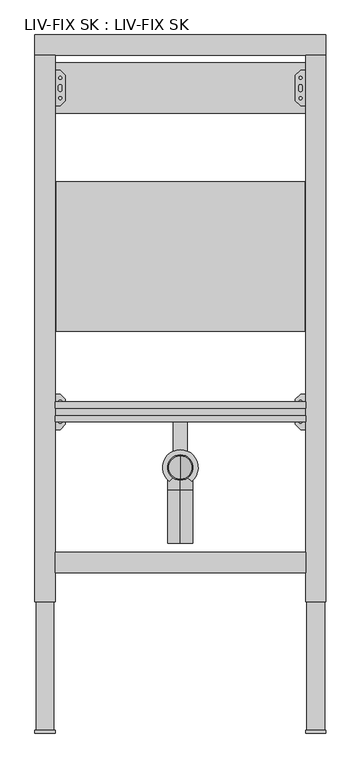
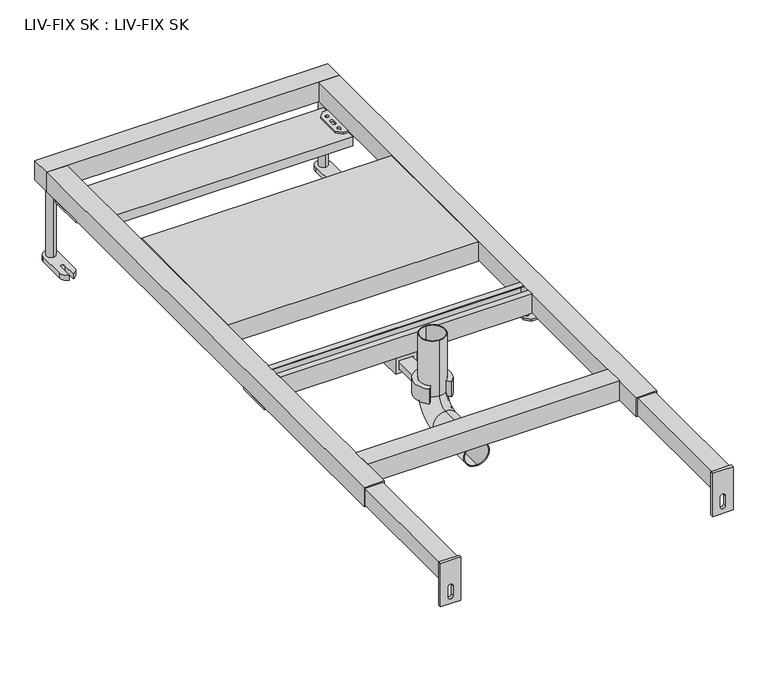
"""IFC4 building model written with IfcOpenShell, lengths in millimetres: flow terminal geometry, LIV-FIX SK : LIV-FIX SK."""

from ifc_helpers import new_model, si_unit, point, frame, frame_2d, origin, origin_with_axes, place, context, project, spatial, polyline, circle_curve, ellipse_curve, trimmed, segment, composite_curve, outline, extrude, source, transform, mapped, element, save
from ifc_brep_helpers import plane_surface, cylinder_surface, revolved_surface, advanced_brep


def liv_fix_sk_liv_fix_sk_3fb73113(model_context):
    return source(origin(), model_context, "Body", "SolidModel", [
        extrude(outline(polyline([(245.5, 890.0), (245.5, 594.0), (-245.5, 594.0), (-245.5, 890.0), (245.5, 890.0)])), frame((0.0, 0.0, 160.0), z_axis=(0.0, 0.0, 1.0), x_axis=(1.0, 0.0, 0.0)), (0.0, 0.0, 1.0), 40.0),
        extrude(outline(polyline([(247.5, 1125.0), (247.5, 1025.0), (-247.5, 1025.0), (-247.5, 1125.0), (247.5, 1125.0)])), frame((0.0, 0.0, 138.0), z_axis=(0.0, 0.0, 1.0), x_axis=(1.0, 0.0, 0.0)), (0.0, 0.0, 1.0), 18.0),
        advanced_brep(
        [(-14.0, 455.0, 136.5), (-14.0, 455.0, 150.0), (14.0, 455.0, 150.0), (14.0, 455.0, 136.5), (14.0, 357.0780299, 136.5), (22.1922786, 297.9352116, 136.5), (15.0727332, 305.0547571, 136.5), (-15.0727332, 305.0547571, 136.5), (-22.1922786, 297.9352116, 136.5), (-14.0, 357.0780299, 136.5), (14.0, 357.0780299, 150.0), (-14.0, 357.0780299, 150.0), (0.0, 360.0, 150.0), (15.0727332, 305.0547571, 167.5), (22.1922786, 297.9352116, 167.5), (0.0, 360.0, 167.5), (-22.1922786, 297.9352116, 167.5), (-15.0727332, 305.0547571, 167.5)],
        [
            (0, 1),
            (1, 2),
            (2, 3),
            (3, 0),
            (3, 4),
            (4, 5, circle_curve(frame((0.0, 325.0, 136.5), z_axis=(0.0, 0.0, -1.0), x_axis=(0.0, -1.0, 0.0)), 35.0)),
            (5, 6),
            (6, 7, circle_curve(frame((0.0, 325.0, 136.5), z_axis=(0.0, 0.0, 1.0), x_axis=(0.0, -1.0, 0.0)), 25.0)),
            (7, 8),
            (8, 9, circle_curve(frame((0.0, 325.0, 136.5), z_axis=(0.0, 0.0, -1.0), x_axis=(0.0, -1.0, 0.0)), 35.0)),
            (9, 0),
            (2, 10),
            (10, 4),
            (1, 11),
            (11, 12, circle_curve(frame((0.0, 325.0, 150.0), z_axis=(0.0, 0.0, -1.0), x_axis=(0.0, -1.0, 0.0)), 35.0)),
            (12, 10, circle_curve(frame((0.0, 325.0, 150.0), z_axis=(0.0, 0.0, -1.0), x_axis=(0.0, -1.0, 0.0)), 35.0)),
            (9, 11),
            (13, 14),
            (14, 15, circle_curve(frame((0.0, 325.0, 167.5), z_axis=(0.0, 0.0, 1.0), x_axis=(0.0, -1.0, 0.0)), 35.0)),
            (15, 16, circle_curve(frame((0.0, 325.0, 167.5), z_axis=(0.0, 0.0, 1.0), x_axis=(0.0, -1.0, 0.0)), 35.0)),
            (16, 17),
            (17, 13, circle_curve(frame((0.0, 325.0, 167.5), z_axis=(0.0, 0.0, -1.0), x_axis=(0.0, -1.0, 0.0)), 25.0)),
            (17, 7),
            (6, 13),
            (16, 8),
            (15, 12),
            (14, 5),
        ],
        [
            plane_surface(frame((-14.0, 455.0, 136.5), z_axis=(0.0, 1.0, 0.0), x_axis=(0.0, 0.0, 1.0))),
            plane_surface(frame((14.0, 455.0, 136.5), z_axis=(0.0, 0.0, -1.0), x_axis=(0.0, -1.0, 0.0))),
            plane_surface(frame((14.0, 455.0, 150.0), z_axis=(1.0, 0.0, 0.0), x_axis=(0.0, -1.0, 0.0))),
            plane_surface(frame((-14.0, 455.0, 150.0), z_axis=(0.0, 0.0, 1.0), x_axis=(0.0, -1.0, 0.0))),
            plane_surface(frame((-14.0, 455.0, 136.5), z_axis=(-1.0, 0.0, 0.0), x_axis=(0.0, -1.0, 0.0))),
            plane_surface(frame((0.0, 300.0, 167.5), z_axis=(0.0, 0.0, 1.0), x_axis=(-1.0, 0.0, 0.0))),
            revolved_surface(polyline([(0.0, 300.0, 167.5), (0.0, 300.0, 136.5)]), (0.0, 325.0, 167.5), (0.0, 0.0, 1.0)),
            plane_surface(frame((-15.0727332, 305.0547571, 136.5), z_axis=(0.7071067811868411, -0.707106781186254, 0.0), x_axis=(0.0, 0.0, 1.0))),
            cylinder_surface(frame((0.0, 325.0, 167.5), z_axis=(0.0, 0.0, -1.0), x_axis=(0.0, -1.0, 0.0)), 35.0),
            plane_surface(frame((22.1922786, 297.9352116, 136.5), z_axis=(-0.7071067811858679, -0.7071067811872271, 0.0), x_axis=(0.0, 0.0, 1.0))),
        ],
        [
            (0, [[1, 2, 3, 4]]),
            (1, [[-4, 5, 6, 7, 8, 9, 10, 11]]),
            (2, [[-3, 12, 13, -5]]),
            (3, [[-2, 14, 15, 16, -12]]),
            (4, [[-1, -11, 17, -14]]),
            (5, [[18, 19, 20, 21, 22]]),
            (6, [[-22, 23, -8, 24]]),
            (7, [[-21, 25, -9, -23]]),
            (8, [[-20, 26, -15, -17, -10, -25]]),
            (8, [[-19, 27, -6, -13, -16, -26]]),
            (9, [[-18, -24, -7, -27]]),
        ],
    ),
        extrude(outline(polyline([(415.0, 200.0), (427.4845167, 200.0), (427.4845167, 198.5), (416.5, 198.5), (416.5, 161.5), (453.5, 161.5), (453.5, 198.5), (442.5154833, 198.5), (442.5154833, 200.0), (455.0, 200.0), (455.0, 160.0), (415.0, 160.0), (415.0, 200.0)])), frame((-247.5, 0.0, 0.0), z_axis=(1.0, 0.0, 0.0), x_axis=(0.0, 1.0, 0.0)), (0.0, 0.0, 1.0), 495.0),
        extrude(outline(polyline([(237.5, 1040.0), (227.5, 1050.0), (227.5, 1100.0), (237.5, 1110.0), (287.5, 1110.0), (287.5, 1040.0), (237.5, 1040.0)]), holes=[composite_curve([segment(trimmed(circle_curve(frame_2d((272.5, 1075.0)), 4.5), [point((272.5, 1070.5))], [point((272.5, 1079.5))], True, "CARTESIAN"), True, "CONTINUOUS"), segment(trimmed(circle_curve(frame_2d((272.5, 1075.0)), 4.5), [point((272.5, 1079.5))], [point((272.5, 1070.5))], True, "CARTESIAN"), True, "CONTINUOUS")], self_intersect=False), composite_curve([segment(trimmed(circle_curve(frame_2d((272.5, 1095.0)), 4.5), [point((272.5, 1090.5))], [point((272.5, 1099.5))], True, "CARTESIAN"), True, "CONTINUOUS"), segment(trimmed(circle_curve(frame_2d((272.5, 1095.0)), 4.5), [point((272.5, 1099.5))], [point((272.5, 1090.5))], True, "CARTESIAN"), True, "CONTINUOUS")], self_intersect=False), composite_curve([segment(trimmed(circle_curve(frame_2d((272.5, 1055.0)), 4.5), [point((272.5, 1050.5))], [point((272.5, 1059.5))], True, "CARTESIAN"), True, "CONTINUOUS"), segment(trimmed(circle_curve(frame_2d((272.5, 1055.0)), 4.5), [point((272.5, 1059.5))], [point((272.5, 1050.5))], True, "CARTESIAN"), True, "CONTINUOUS")], self_intersect=False), composite_curve([segment(trimmed(circle_curve(frame_2d((237.5, 1095.0)), 2.9795218), [point((237.5, 1092.0204782))], [point((237.5, 1097.9795218))], True, "CARTESIAN"), True, "CONTINUOUS"), segment(trimmed(circle_curve(frame_2d((237.5, 1095.0)), 2.9795218), [point((237.5, 1097.9795218))], [point((237.5, 1092.0204782))], True, "CARTESIAN"), True, "CONTINUOUS")], self_intersect=False), composite_curve([segment(trimmed(circle_curve(frame_2d((237.5, 1055.0)), 2.9795218), [point((237.5, 1052.0204782))], [point((237.5, 1057.9795218))], True, "CARTESIAN"), True, "CONTINUOUS"), segment(trimmed(circle_curve(frame_2d((237.5, 1055.0)), 2.9795218), [point((237.5, 1057.9795218))], [point((237.5, 1052.0204782))], True, "CARTESIAN"), True, "CONTINUOUS")], self_intersect=False), composite_curve([segment(trimmed(circle_curve(frame_2d((237.5, 1078.5)), 3.5), [point((241.0, 1078.5))], [point((234.0, 1078.5))], True, "CARTESIAN"), True, "CONTINUOUS"), segment(polyline([(234.0, 1078.5), (234.0, 1071.5)]), True, "CONTINUOUS"), segment(trimmed(circle_curve(frame_2d((237.5, 1071.5)), 3.5), [point((234.0, 1071.5))], [point((241.0, 1071.5))], True, "CARTESIAN"), True, "CONTINUOUS"), segment(polyline([(241.0, 1071.5), (241.0, 1078.5)]), True, "CONTINUOUS")], self_intersect=False)]), frame((0.0, 0.0, 156.0), z_axis=(0.0, 0.0, 1.0), x_axis=(1.0, 0.0, 0.0)), (0.0, 0.0, 1.0), 4.0),
        extrude(outline(polyline([(-237.5, 1040.0), (-287.5, 1040.0), (-287.5, 1110.0), (-237.5, 1110.0), (-227.5, 1100.0), (-227.5, 1050.0), (-237.5, 1040.0)]), holes=[composite_curve([segment(trimmed(circle_curve(frame_2d((-272.5, 1075.0)), 4.5), [point((-272.5, 1070.5))], [point((-272.5, 1079.5))], True, "CARTESIAN"), True, "CONTINUOUS"), segment(trimmed(circle_curve(frame_2d((-272.5, 1075.0)), 4.5), [point((-272.5, 1079.5))], [point((-272.5, 1070.5))], True, "CARTESIAN"), True, "CONTINUOUS")], self_intersect=False), composite_curve([segment(trimmed(circle_curve(frame_2d((-272.5, 1095.0)), 4.5), [point((-272.5, 1090.5))], [point((-272.5, 1099.5))], True, "CARTESIAN"), True, "CONTINUOUS"), segment(trimmed(circle_curve(frame_2d((-272.5, 1095.0)), 4.5), [point((-272.5, 1099.5))], [point((-272.5, 1090.5))], True, "CARTESIAN"), True, "CONTINUOUS")], self_intersect=False), composite_curve([segment(trimmed(circle_curve(frame_2d((-272.5, 1055.0)), 4.5), [point((-272.5, 1050.5))], [point((-272.5, 1059.5))], True, "CARTESIAN"), True, "CONTINUOUS"), segment(trimmed(circle_curve(frame_2d((-272.5, 1055.0)), 4.5), [point((-272.5, 1059.5))], [point((-272.5, 1050.5))], True, "CARTESIAN"), True, "CONTINUOUS")], self_intersect=False), composite_curve([segment(trimmed(circle_curve(frame_2d((-237.5, 1095.0)), 2.9795218), [point((-237.5, 1092.0204782))], [point((-237.5, 1097.9795218))], True, "CARTESIAN"), True, "CONTINUOUS"), segment(trimmed(circle_curve(frame_2d((-237.5, 1095.0)), 2.9795218), [point((-237.5, 1097.9795218))], [point((-237.5, 1092.0204782))], True, "CARTESIAN"), True, "CONTINUOUS")], self_intersect=False), composite_curve([segment(trimmed(circle_curve(frame_2d((-237.5, 1055.0)), 2.9795218), [point((-237.5, 1052.0204782))], [point((-237.5, 1057.9795218))], True, "CARTESIAN"), True, "CONTINUOUS"), segment(trimmed(circle_curve(frame_2d((-237.5, 1055.0)), 2.9795218), [point((-237.5, 1057.9795218))], [point((-237.5, 1052.0204782))], True, "CARTESIAN"), True, "CONTINUOUS")], self_intersect=False), composite_curve([segment(polyline([(-241.0, 1078.5), (-241.0, 1071.5)]), True, "CONTINUOUS"), segment(trimmed(circle_curve(frame_2d((-237.5, 1071.5)), 3.5), [point((-241.0, 1071.5))], [point((-234.0, 1071.5))], True, "CARTESIAN"), True, "CONTINUOUS"), segment(polyline([(-234.0, 1071.5), (-234.0, 1078.5)]), True, "CONTINUOUS"), segment(trimmed(circle_curve(frame_2d((-237.5, 1078.5)), 3.5), [point((-234.0, 1078.5))], [point((-241.0, 1078.5))], True, "CARTESIAN"), True, "CONTINUOUS")], self_intersect=False)]), frame((0.0, 0.0, 156.0), z_axis=(0.0, 0.0, 1.0), x_axis=(1.0, 0.0, 0.0)), (0.0, 0.0, 1.0), 4.0),
        advanced_brep(
        [(0.0, 175.0, 75.0), (0.0, 175.0, 125.0), (0.0, 175.0, 77.0), (0.0, 175.0, 123.0), (0.0, 280.0, 75.0), (0.0, 280.0, 125.0), (0.0, 350.0, 260.0), (0.0, 300.0, 260.0), (0.0, 348.0, 260.0), (0.0, 302.0, 260.0), (0.0, 300.0, 145.0), (0.0, 350.0, 145.0), (0.0, 280.0, 77.0), (0.0, 280.0, 123.0), (0.0, 302.0, 145.0), (0.0, 348.0, 145.0)],
        [
            (0, 1, circle_curve(frame((0.0, 175.0, 100.0), z_axis=(0.0, -1.0, 0.0), x_axis=(0.0, 0.0, 1.0)), 25.0)),
            (1, 0, circle_curve(frame((0.0, 175.0, 100.0), z_axis=(0.0, -1.0, 0.0), x_axis=(0.0, 0.0, 1.0)), 25.0)),
            (2, 3, circle_curve(frame((0.0, 175.0, 100.0), z_axis=(0.0, 1.0, 0.0), x_axis=(0.0, 0.0, 1.0)), 23.0)),
            (3, 2, circle_curve(frame((0.0, 175.0, 100.0), z_axis=(0.0, 1.0, 0.0), x_axis=(0.0, 0.0, 1.0)), 23.0)),
            (0, 4),
            (4, 5, circle_curve(frame((0.0, 280.0, 100.0), z_axis=(0.0, -1.0, 0.0), x_axis=(0.0, 0.0, 1.0)), 25.0)),
            (5, 1),
            (5, 4, circle_curve(frame((0.0, 280.0, 100.0), z_axis=(0.0, -1.0, 0.0), x_axis=(0.0, 0.0, 1.0)), 25.0)),
            (6, 7, circle_curve(frame((0.0, 325.0, 260.0), z_axis=(0.0, 0.0, 1.0), x_axis=(0.0, -1.0, 0.0)), 25.0)),
            (7, 6, circle_curve(frame((0.0, 325.0, 260.0), z_axis=(0.0, 0.0, 1.0), x_axis=(0.0, -1.0, 0.0)), 25.0)),
            (8, 9, circle_curve(frame((0.0, 325.0, 260.0), z_axis=(0.0, 0.0, -1.0), x_axis=(0.0, -1.0, 0.0)), 23.0)),
            (9, 8, circle_curve(frame((0.0, 325.0, 260.0), z_axis=(0.0, 0.0, -1.0), x_axis=(0.0, -1.0, 0.0)), 23.0)),
            (10, 11, circle_curve(frame((0.0, 325.0, 145.0), z_axis=(0.0, 0.0, 1.0), x_axis=(0.0, -1.0, 0.0)), 25.0)),
            (11, 6),
            (7, 10),
            (11, 10, circle_curve(frame((0.0, 325.0, 145.0), z_axis=(0.0, 0.0, 1.0), x_axis=(0.0, -1.0, 0.0)), 25.0)),
            (10, 5, circle_curve(frame((0.0, 280.0, 145.0), z_axis=(-1.0, 0.0, 0.0), x_axis=(0.0, 0.0, -1.0)), 20.0)),
            (4, 11, circle_curve(frame((0.0, 280.0, 145.0), z_axis=(1.0, 0.0, 0.0), x_axis=(0.0, 0.0, -1.0)), 70.0)),
            (2, 12),
            (12, 13, circle_curve(frame((0.0, 280.0, 100.0), z_axis=(0.0, 1.0, 0.0), x_axis=(0.0, 0.0, 1.0)), 23.0)),
            (13, 3),
            (13, 12, circle_curve(frame((0.0, 280.0, 100.0), z_axis=(0.0, 1.0, 0.0), x_axis=(0.0, 0.0, 1.0)), 23.0)),
            (14, 13, circle_curve(frame((0.0, 280.0, 145.0), z_axis=(-1.0, 0.0, 0.0), x_axis=(0.0, 0.0, -1.0)), 22.0)),
            (12, 15, circle_curve(frame((0.0, 280.0, 145.0), z_axis=(1.0, 0.0, 0.0), x_axis=(0.0, 0.0, -1.0)), 68.0)),
            (15, 14, circle_curve(frame((0.0, 325.0, 145.0), z_axis=(0.0, 0.0, 1.0), x_axis=(0.0, -1.0, 0.0)), 23.0)),
            (14, 15, circle_curve(frame((0.0, 325.0, 145.0), z_axis=(0.0, 0.0, 1.0), x_axis=(0.0, -1.0, 0.0)), 23.0)),
            (15, 8),
            (9, 14),
        ],
        [
            plane_surface(frame((0.0, 175.0, 100.0), z_axis=(0.0, -1.0, 0.0), x_axis=(1.0, 0.0, 0.0))),
            cylinder_surface(frame((0.0, 175.0, 100.0), z_axis=(0.0, -1.0, 0.0), x_axis=(0.0, 0.0, 1.0)), 25.0),
            plane_surface(frame((0.0, 325.0, 260.0), z_axis=(0.0, 0.0, 1.0), x_axis=(1.0, 0.0, 0.0))),
            cylinder_surface(frame((0.0, 325.0, 145.0), z_axis=(0.0, 0.0, -1.0), x_axis=(0.0, -1.0, 0.0)), 25.0),
            revolved_surface(trimmed(ellipse_curve(frame((0.0, 280.0, 100.0), z_axis=(0.0, -1.0, 0.0), x_axis=(0.0, 0.0, 1.0)), 25.0, 25.0), [point((0.0, 280.0, 75.0))], [point((0.0, 280.0, 125.0))], True, "CARTESIAN"), (0.0, 280.0, 145.0), (1.0, 0.0, 0.0)),
            revolved_surface(trimmed(ellipse_curve(frame((0.0, 280.0, 100.0), z_axis=(0.0, -1.0, 0.0), x_axis=(0.0, 0.0, 1.0)), 25.0, 25.0), [point((0.0, 280.0, 125.0))], [point((0.0, 280.0, 75.0))], True, "CARTESIAN"), (0.0, 280.0, 145.0), (1.0, 0.0, 0.0)),
            revolved_surface(polyline([(0.0, 280.0, 123.0), (0.0, 175.0, 123.0)]), (0.0, 175.0, 100.0), (0.0, 1.0, 0.0)),
            revolved_surface(trimmed(ellipse_curve(frame((0.0, 280.0, 100.0), z_axis=(0.0, 1.0, 0.0), x_axis=(0.0, 0.0, 1.0)), 23.0, 23.0), [point((0.0, 280.0, 77.0))], [point((0.0, 280.0, 123.0))], True, "CARTESIAN"), (0.0, 280.0, 145.0), (1.0, 0.0, 0.0)),
            revolved_surface(trimmed(ellipse_curve(frame((0.0, 280.0, 100.0), z_axis=(0.0, 1.0, 0.0), x_axis=(0.0, 0.0, 1.0)), 23.0, 23.0), [point((0.0, 280.0, 123.0))], [point((0.0, 280.0, 77.0))], True, "CARTESIAN"), (0.0, 280.0, 145.0), (1.0, 0.0, 0.0)),
            revolved_surface(polyline([(0.0, 302.0, 260.0), (0.0, 302.0, 145.0)]), (0.0, 325.0, 145.0), (0.0, 0.0, 1.0)),
        ],
        [
            (0, [[1, 2], [3, 4]]),
            (1, [[-1, 5, 6, 7]]),
            (1, [[-2, -7, 8, -5]]),
            (2, [[9, 10], [11, 12]]),
            (3, [[13, 14, -10, 15]]),
            (3, [[16, -15, -9, -14]]),
            (4, [[17, -6, 18, -13]]),
            (5, [[-18, -8, -17, -16]]),
            (6, [[-3, 19, 20, 21]]),
            (6, [[-4, -21, 22, -19]]),
            (7, [[23, -20, 24, 25]]),
            (8, [[-24, -22, -23, 26]]),
            (9, [[-25, 27, -12, 28]]),
            (9, [[-26, -28, -11, -27]]),
        ],
    ),
        extrude(outline(polyline([(160.0, 20.9285173), (160.0, -20.5714827), (126.5, -20.5714827), (126.5, 20.9285173), (160.0, 20.9285173)]), holes=[polyline([(152.5, 13.75), (134.0, 13.75), (134.0, -13.75), (152.5, -13.75), (152.5, 13.75)])]), frame((0.0, 415.0, 0.0), z_axis=(0.0, 1.0, 0.0), x_axis=(0.0, 0.0, 1.0)), (0.0, 0.0, 1.0), 40.0),
        extrude(outline(polyline([(237.5, 400.0), (227.5, 410.0), (227.5, 460.0), (237.5, 470.0), (287.5, 470.0), (287.5, 400.0), (237.5, 400.0)]), holes=[composite_curve([segment(trimmed(circle_curve(frame_2d((272.5, 435.0)), 4.5), [point((272.5, 430.5))], [point((272.5, 439.5))], True, "CARTESIAN"), True, "CONTINUOUS"), segment(trimmed(circle_curve(frame_2d((272.5, 435.0)), 4.5), [point((272.5, 439.5))], [point((272.5, 430.5))], True, "CARTESIAN"), True, "CONTINUOUS")], self_intersect=False), composite_curve([segment(trimmed(circle_curve(frame_2d((272.5, 455.0)), 4.5), [point((272.5, 450.5))], [point((272.5, 459.5))], True, "CARTESIAN"), True, "CONTINUOUS"), segment(trimmed(circle_curve(frame_2d((272.5, 455.0)), 4.5), [point((272.5, 459.5))], [point((272.5, 450.5))], True, "CARTESIAN"), True, "CONTINUOUS")], self_intersect=False), composite_curve([segment(trimmed(circle_curve(frame_2d((272.5, 415.0)), 4.5), [point((272.5, 410.5))], [point((272.5, 419.5))], True, "CARTESIAN"), True, "CONTINUOUS"), segment(trimmed(circle_curve(frame_2d((272.5, 415.0)), 4.5), [point((272.5, 419.5))], [point((272.5, 410.5))], True, "CARTESIAN"), True, "CONTINUOUS")], self_intersect=False), composite_curve([segment(trimmed(circle_curve(frame_2d((237.5, 455.0)), 2.9795218), [point((237.5, 452.0204782))], [point((237.5, 457.9795218))], True, "CARTESIAN"), True, "CONTINUOUS"), segment(trimmed(circle_curve(frame_2d((237.5, 455.0)), 2.9795218), [point((237.5, 457.9795218))], [point((237.5, 452.0204782))], True, "CARTESIAN"), True, "CONTINUOUS")], self_intersect=False), composite_curve([segment(trimmed(circle_curve(frame_2d((237.5, 415.0)), 2.9795218), [point((237.5, 412.0204782))], [point((237.5, 417.9795218))], True, "CARTESIAN"), True, "CONTINUOUS"), segment(trimmed(circle_curve(frame_2d((237.5, 415.0)), 2.9795218), [point((237.5, 417.9795218))], [point((237.5, 412.0204782))], True, "CARTESIAN"), True, "CONTINUOUS")], self_intersect=False), composite_curve([segment(trimmed(circle_curve(frame_2d((237.5, 438.5)), 3.5), [point((241.0, 438.5))], [point((234.0, 438.5))], True, "CARTESIAN"), True, "CONTINUOUS"), segment(polyline([(234.0, 438.5), (234.0, 431.5)]), True, "CONTINUOUS"), segment(trimmed(circle_curve(frame_2d((237.5, 431.5)), 3.5), [point((234.0, 431.5))], [point((241.0, 431.5))], True, "CARTESIAN"), True, "CONTINUOUS"), segment(polyline([(241.0, 431.5), (241.0, 438.5)]), True, "CONTINUOUS")], self_intersect=False)]), frame((0.0, 0.0, 156.0), z_axis=(0.0, 0.0, 1.0), x_axis=(1.0, 0.0, 0.0)), (0.0, 0.0, 1.0), 4.0),
        extrude(outline(polyline([(-237.5, 400.0), (-287.5, 400.0), (-287.5, 470.0), (-237.5, 470.0), (-227.5, 460.0), (-227.5, 410.0), (-237.5, 400.0)]), holes=[composite_curve([segment(trimmed(circle_curve(frame_2d((-272.5, 435.0)), 4.5), [point((-272.5, 430.5))], [point((-272.5, 439.5))], True, "CARTESIAN"), True, "CONTINUOUS"), segment(trimmed(circle_curve(frame_2d((-272.5, 435.0)), 4.5), [point((-272.5, 439.5))], [point((-272.5, 430.5))], True, "CARTESIAN"), True, "CONTINUOUS")], self_intersect=False), composite_curve([segment(trimmed(circle_curve(frame_2d((-272.5, 455.0)), 4.5), [point((-272.5, 450.5))], [point((-272.5, 459.5))], True, "CARTESIAN"), True, "CONTINUOUS"), segment(trimmed(circle_curve(frame_2d((-272.5, 455.0)), 4.5), [point((-272.5, 459.5))], [point((-272.5, 450.5))], True, "CARTESIAN"), True, "CONTINUOUS")], self_intersect=False), composite_curve([segment(trimmed(circle_curve(frame_2d((-272.5, 415.0)), 4.5), [point((-272.5, 410.5))], [point((-272.5, 419.5))], True, "CARTESIAN"), True, "CONTINUOUS"), segment(trimmed(circle_curve(frame_2d((-272.5, 415.0)), 4.5), [point((-272.5, 419.5))], [point((-272.5, 410.5))], True, "CARTESIAN"), True, "CONTINUOUS")], self_intersect=False), composite_curve([segment(trimmed(circle_curve(frame_2d((-237.5, 455.0)), 2.9795218), [point((-237.5, 452.0204782))], [point((-237.5, 457.9795218))], True, "CARTESIAN"), True, "CONTINUOUS"), segment(trimmed(circle_curve(frame_2d((-237.5, 455.0)), 2.9795218), [point((-237.5, 457.9795218))], [point((-237.5, 452.0204782))], True, "CARTESIAN"), True, "CONTINUOUS")], self_intersect=False), composite_curve([segment(trimmed(circle_curve(frame_2d((-237.5, 415.0)), 2.9795218), [point((-237.5, 412.0204782))], [point((-237.5, 417.9795218))], True, "CARTESIAN"), True, "CONTINUOUS"), segment(trimmed(circle_curve(frame_2d((-237.5, 415.0)), 2.9795218), [point((-237.5, 417.9795218))], [point((-237.5, 412.0204782))], True, "CARTESIAN"), True, "CONTINUOUS")], self_intersect=False), composite_curve([segment(polyline([(-241.0, 438.5), (-241.0, 431.5)]), True, "CONTINUOUS"), segment(trimmed(circle_curve(frame_2d((-237.5, 431.5)), 3.5), [point((-241.0, 431.5))], [point((-234.0, 431.5))], True, "CARTESIAN"), True, "CONTINUOUS"), segment(polyline([(-234.0, 431.5), (-234.0, 438.5)]), True, "CONTINUOUS"), segment(trimmed(circle_curve(frame_2d((-237.5, 438.5)), 3.5), [point((-234.0, 438.5))], [point((-241.0, 438.5))], True, "CARTESIAN"), True, "CONTINUOUS")], self_intersect=False)]), frame((0.0, 0.0, 156.0), z_axis=(0.0, 0.0, 1.0), x_axis=(1.0, 0.0, 0.0)), (0.0, 0.0, 1.0), 4.0),
        extrude(outline(composite_curve([segment(trimmed(circle_curve(frame_2d((-267.5, 1160.0)), 8.75), [point((-267.5, 1151.25))], [point((-267.5, 1168.75))], False, "CARTESIAN"), True, "CONTINUOUS"), segment(trimmed(circle_curve(frame_2d((-267.5, 1160.0)), 8.75), [point((-267.5, 1168.75))], [point((-267.5, 1151.25))], False, "CARTESIAN"), True, "CONTINUOUS")], self_intersect=False)), frame((0.0, 0.0, 10.0), z_axis=(0.0, 0.0, 1.0), x_axis=(1.0, 0.0, 0.0)), (0.0, 0.0, 1.0), 150.0),
        extrude(outline(composite_curve([segment(trimmed(circle_curve(frame_2d((267.5, 1160.0)), 8.75), [point((267.5, 1151.25))], [point((267.5, 1168.75))], False, "CARTESIAN"), True, "CONTINUOUS"), segment(trimmed(circle_curve(frame_2d((267.5, 1160.0)), 8.75), [point((267.5, 1168.75))], [point((267.5, 1151.25))], False, "CARTESIAN"), True, "CONTINUOUS")], self_intersect=False)), frame((0.0, 0.0, 10.0), z_axis=(0.0, 0.0, 1.0), x_axis=(1.0, 0.0, 0.0)), (0.0, 0.0, 1.0), 150.0),
        extrude(outline(composite_curve([segment(trimmed(circle_curve(frame_2d((-267.5, 1160.0)), 15.0), [point((-282.5, 1160.0))], [point((-252.5, 1160.0))], False, "CARTESIAN"), True, "CONTINUOUS"), segment(polyline([(-252.5, 1160.0), (-252.5, 1106.0)]), True, "CONTINUOUS"), segment(trimmed(circle_curve(frame_2d((-267.5, 1106.0)), 15.0), [point((-252.5, 1106.0))], [point((-263.5, 1091.5431677))], False, "CARTESIAN"), True, "CONTINUOUS"), segment(polyline([(-263.5, 1091.5431677), (-263.5, 1120.4568323)]), True, "CONTINUOUS"), segment(trimmed(circle_curve(frame_2d((-267.5, 1120.4568323)), 4.0), [point((-263.5, 1120.4568323))], [point((-271.5, 1120.4568323))], True, "CARTESIAN"), True, "CONTINUOUS"), segment(polyline([(-271.5, 1120.4568323), (-271.5, 1091.5431677)]), True, "CONTINUOUS"), segment(trimmed(circle_curve(frame_2d((-267.5, 1106.0)), 15.0), [point((-271.5, 1091.5431677))], [point((-282.5, 1106.0))], False, "CARTESIAN"), True, "CONTINUOUS"), segment(polyline([(-282.5, 1106.0), (-282.5, 1160.0)]), True, "CONTINUOUS")], self_intersect=False)), origin_with_axes(), (0.0, 0.0, 1.0), 10.0),
        extrude(outline(composite_curve([segment(polyline([(282.5, 1160.0), (282.5, 1106.0)]), True, "CONTINUOUS"), segment(trimmed(circle_curve(frame_2d((267.5, 1106.0)), 15.0), [point((282.5, 1106.0))], [point((271.5, 1091.5431677))], False, "CARTESIAN"), True, "CONTINUOUS"), segment(polyline([(271.5, 1091.5431677), (271.5, 1120.4568323)]), True, "CONTINUOUS"), segment(trimmed(circle_curve(frame_2d((267.5, 1120.4568323)), 4.0), [point((271.5, 1120.4568323))], [point((263.5, 1120.4568323))], True, "CARTESIAN"), True, "CONTINUOUS"), segment(polyline([(263.5, 1120.4568323), (263.5, 1091.5431677)]), True, "CONTINUOUS"), segment(trimmed(circle_curve(frame_2d((267.5, 1106.0)), 15.0), [point((263.5, 1091.5431677))], [point((252.5, 1106.0))], False, "CARTESIAN"), True, "CONTINUOUS"), segment(polyline([(252.5, 1106.0), (252.5, 1160.0)]), True, "CONTINUOUS"), segment(trimmed(circle_curve(frame_2d((267.5, 1160.0)), 15.0), [point((252.5, 1160.0))], [point((282.5, 1160.0))], False, "CARTESIAN"), True, "CONTINUOUS")], self_intersect=False)), origin_with_axes(), (0.0, 0.0, 1.0), 10.0),
        extrude(outline(polyline([(-285.0, 349.0), (-250.0, 349.0), (-250.0, -194.0), (-285.0, -194.0), (-285.0, 349.0)])), frame((0.0, 0.0, 162.5), z_axis=(0.0, 0.0, 1.0), x_axis=(1.0, 0.0, 0.0)), (0.0, 0.0, 1.0), 35.0),
        extrude(outline(polyline([(249.9841074, 349.0), (284.9841074, 349.0), (284.9841074, -194.0), (249.9841074, -194.0), (249.9841074, 349.0)])), frame((0.0, 0.0, 162.5), z_axis=(0.0, 0.0, 1.0), x_axis=(1.0, 0.0, 0.0)), (0.0, 0.0, 1.0), 35.0),
        extrude(outline(polyline([(200.0, 287.5), (200.0, 247.5), (110.0, 247.5), (110.0, 287.5), (200.0, 287.5)]), holes=[composite_curve([segment(trimmed(circle_curve(frame_2d((145.0, 267.5)), 5.0), [point((145.0, 262.5))], [point((145.0, 272.5))], True, "CARTESIAN"), True, "CONTINUOUS"), segment(polyline([(145.0, 272.5), (125.0, 272.5)]), True, "CONTINUOUS"), segment(trimmed(circle_curve(frame_2d((125.0, 267.5)), 5.0), [point((125.0, 272.5))], [point((125.0, 262.5))], True, "CARTESIAN"), True, "CONTINUOUS"), segment(polyline([(125.0, 262.5), (145.0, 262.5)]), True, "CONTINUOUS")], self_intersect=False)]), frame((0.0, -200.0, 0.0), z_axis=(0.0, 1.0, 0.0), x_axis=(0.0, 0.0, 1.0)), (0.0, 0.0, 1.0), 6.0),
        extrude(outline(polyline([(200.0, -247.5), (200.0, -287.5), (110.0, -287.5), (110.0, -247.5), (200.0, -247.5)]), holes=[composite_curve([segment(trimmed(circle_curve(frame_2d((145.0, -267.5)), 5.0), [point((145.0, -272.5))], [point((145.0, -262.5))], True, "CARTESIAN"), True, "CONTINUOUS"), segment(polyline([(145.0, -262.5), (125.0, -262.5)]), True, "CONTINUOUS"), segment(trimmed(circle_curve(frame_2d((125.0, -267.5)), 5.0), [point((125.0, -262.5))], [point((125.0, -272.5))], True, "CARTESIAN"), True, "CONTINUOUS"), segment(polyline([(125.0, -272.5), (145.0, -272.5)]), True, "CONTINUOUS")], self_intersect=False)]), frame((0.0, -200.0, 0.0), z_axis=(0.0, 1.0, 0.0), x_axis=(0.0, 0.0, 1.0)), (0.0, 0.0, 1.0), 6.0),
        extrude(outline(polyline([(247.5, 157.0), (247.5, 117.0), (-247.5, 117.0), (-247.5, 157.0), (247.5, 157.0)])), frame((0.0, 0.0, 160.0), z_axis=(0.0, 0.0, 1.0), x_axis=(1.0, 0.0, 0.0)), (0.0, 0.0, 1.0), 40.0),
        extrude(outline(polyline([(-247.5, 60.0), (-287.5, 60.0), (-287.5, 1140.0), (-247.5, 1140.0), (-247.5, 60.0)])), frame((0.0, 0.0, 160.0), z_axis=(0.0, 0.0, 1.0), x_axis=(1.0, 0.0, 0.0)), (0.0, 0.0, 1.0), 40.0),
        extrude(outline(polyline([(287.5, 60.0), (247.5, 60.0), (247.5, 1140.0), (287.5, 1140.0), (287.5, 60.0)])), frame((0.0, 0.0, 160.0), z_axis=(0.0, 0.0, 1.0), x_axis=(1.0, 0.0, 0.0)), (0.0, 0.0, 1.0), 40.0),
        extrude(outline(polyline([(287.5, 1180.0), (287.5, 1140.0), (-287.5, 1140.0), (-287.5, 1180.0), (287.5, 1180.0)])), frame((0.0, 0.0, 160.0), z_axis=(0.0, 0.0, 1.0), x_axis=(1.0, 0.0, 0.0)), (0.0, 0.0, 1.0), 40.0),
    ])


if __name__ == "__main__":
    model = new_model("IFC4")
    model_context = context("Model", 3, world=origin())
    ifc_project = project(units=[si_unit("LENGTHUNIT", "METRE", prefix="MILLI")], contexts=[model_context])
    site = spatial("IfcSite", under=ifc_project)
    building = spatial("IfcBuilding", under=site)
    placement = place(None, origin())
    liv_fix_sk_liv_fix_sk_shape = liv_fix_sk_liv_fix_sk_3fb73113(model_context)
    element("IfcFlowTerminal", 1, ObjectType="LIV-FIX SK : LIV-FIX SK", at=placement, inside=building, context=model_context, shape_type="MappedRepresentation", body=[
        mapped(liv_fix_sk_liv_fix_sk_shape, transform((0.0, 0.0, 0.0), x_axis=(1.0, 0.0, 0.0), y_axis=(0.0, 1.0, 0.0), z_axis=(0.0, 0.0, 1.0))),
    ])
    save(model, "model.ifc")
